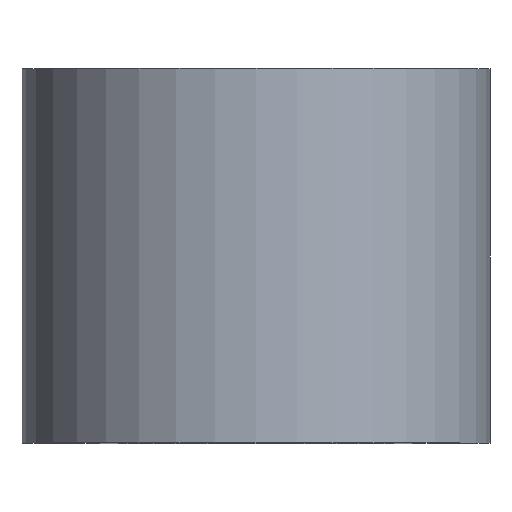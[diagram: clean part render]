
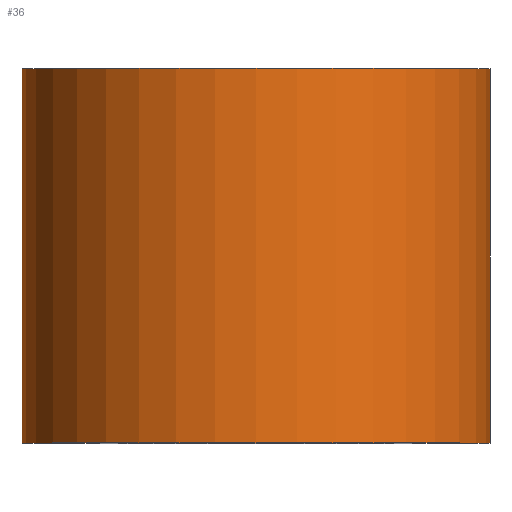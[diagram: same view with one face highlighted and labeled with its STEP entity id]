
A CAD part, top view. The second image highlights one B-rep face of the part: STEP entity #36.
In plain terms, the highlighted cylindrical face has radius 7.5 mm (diameter 15 mm), a partial arc.
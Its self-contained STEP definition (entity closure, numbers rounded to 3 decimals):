
#3 = DIRECTION ( 'NONE',  ( 0., 1., 0. ) ) ;
#7 = CYLINDRICAL_SURFACE ( 'NONE', #58, 7.5 ) ;
#28 = DIRECTION ( 'NONE',  ( -1., 0., 0. ) ) ;
#34 = VERTEX_POINT ( 'NONE', #67 ) ;
#36 = ADVANCED_FACE ( 'NONE', ( #228 ), #7, .T. ) ;
#39 = ORIENTED_EDGE ( 'NONE', *, *, #249, .F. ) ;
#47 = CARTESIAN_POINT ( 'NONE',  ( 7.5, 12., 0. ) ) ;
#49 = CARTESIAN_POINT ( 'NONE',  ( 7.5, 0., 0. ) ) ;
#55 = AXIS2_PLACEMENT_3D ( 'NONE', #284, #268, #28 ) ;
#56 = LINE ( 'NONE', #288, #195 ) ;
#58 = AXIS2_PLACEMENT_3D ( 'NONE', #201, #3, #69 ) ;
#67 = CARTESIAN_POINT ( 'NONE',  ( -7.5, 12., 0. ) ) ;
#69 = DIRECTION ( 'NONE',  ( -1., 0., 0. ) ) ;
#79 = EDGE_CURVE ( 'NONE', #99, #109, #252, .T. ) ;
#93 = DIRECTION ( 'NONE',  ( 0., 1., 0. ) ) ;
#96 = CIRCLE ( 'NONE', #55, 7.5 ) ;
#99 = VERTEX_POINT ( 'NONE', #208 ) ;
#108 = LINE ( 'NONE', #49, #285 ) ;
#109 = VERTEX_POINT ( 'NONE', #237 ) ;
#137 = DIRECTION ( 'NONE',  ( 0., 1., 0. ) ) ;
#167 = ORIENTED_EDGE ( 'NONE', *, *, #79, .T. ) ;
#178 = CARTESIAN_POINT ( 'NONE',  ( 0., 0., 0. ) ) ;
#195 = VECTOR ( 'NONE', #265, 1000. ) ;
#200 = EDGE_LOOP ( 'NONE', ( #167, #254, #272, #39 ) ) ;
#201 = CARTESIAN_POINT ( 'NONE',  ( 0., 0., 0. ) ) ;
#208 = CARTESIAN_POINT ( 'NONE',  ( -7.5, 0., 0. ) ) ;
#217 = VERTEX_POINT ( 'NONE', #47 ) ;
#227 = AXIS2_PLACEMENT_3D ( 'NONE', #178, #93, #282 ) ;
#228 = FACE_OUTER_BOUND ( 'NONE', #200, .T. ) ;
#236 = EDGE_CURVE ( 'NONE', #34, #217, #96, .T. ) ;
#237 = CARTESIAN_POINT ( 'NONE',  ( 7.5, 0., 0. ) ) ;
#249 = EDGE_CURVE ( 'NONE', #99, #34, #56, .T. ) ;
#252 = CIRCLE ( 'NONE', #227, 7.5 ) ;
#254 = ORIENTED_EDGE ( 'NONE', *, *, #270, .T. ) ;
#265 = DIRECTION ( 'NONE',  ( 0., 1., 0. ) ) ;
#268 = DIRECTION ( 'NONE',  ( 0., 1., 0. ) ) ;
#270 = EDGE_CURVE ( 'NONE', #109, #217, #108, .T. ) ;
#272 = ORIENTED_EDGE ( 'NONE', *, *, #236, .F. ) ;
#282 = DIRECTION ( 'NONE',  ( -1., 0., 0. ) ) ;
#284 = CARTESIAN_POINT ( 'NONE',  ( 0., 12., 0. ) ) ;
#285 = VECTOR ( 'NONE', #137, 1000. ) ;
#288 = CARTESIAN_POINT ( 'NONE',  ( -7.5, 0., 0. ) ) ;
